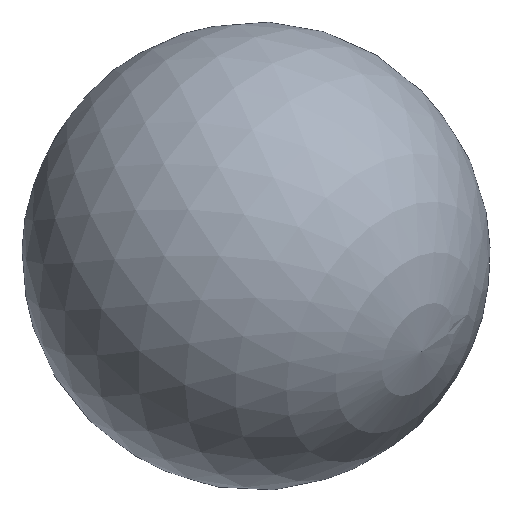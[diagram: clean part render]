
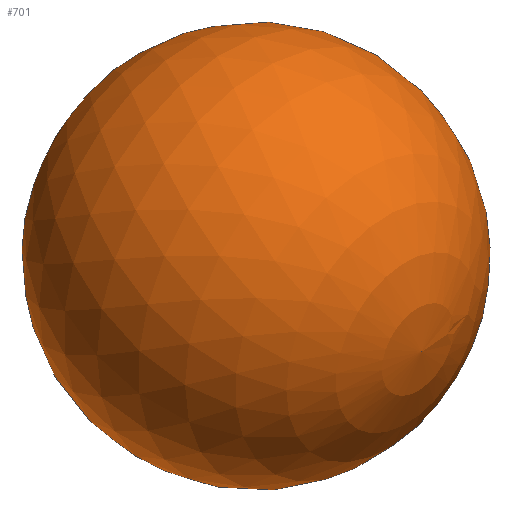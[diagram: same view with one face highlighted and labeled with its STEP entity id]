
A CAD part, isometric view. The second image highlights one B-rep face of the part: STEP entity #701.
In plain terms, the highlighted spherical face has radius 444 mm.
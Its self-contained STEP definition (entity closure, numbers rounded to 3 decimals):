
#701 = ADVANCED_FACE('',(#702),#717,.T.);
#702 = FACE_BOUND('',#703,.T.);
#703 = EDGE_LOOP('',(#704,#735,#762));
#704 = ORIENTED_EDGE('',*,*,#705,.T.);
#705 = EDGE_CURVE('',#706,#708,#710,.T.);
#706 = VERTEX_POINT('',#707);
#707 = CARTESIAN_POINT('',(0.,-444.,0.));
#708 = VERTEX_POINT('',#709);
#709 = CARTESIAN_POINT('',(35.,442.618,0.));
#710 = SEAM_CURVE('',#711,(#716,#728),.PCURVE_S1.);
#711 = CIRCLE('',#712,444.);
#712 = AXIS2_PLACEMENT_3D('',#713,#714,#715);
#713 = CARTESIAN_POINT('',(0.,0.,0.));
#714 = DIRECTION('',(0.,0.,1.));
#715 = DIRECTION('',(0.,-1.,0.));
#716 = PCURVE('',#717,#722);
#717 = SPHERICAL_SURFACE('',#718,444.);
#718 = AXIS2_PLACEMENT_3D('',#719,#720,#721);
#719 = CARTESIAN_POINT('',(0.,0.,0.));
#720 = DIRECTION('',(0.,1.,0.));
#721 = DIRECTION('',(1.,-0.,0.));
#722 = DEFINITIONAL_REPRESENTATION('',(#723),#727);
#723 = LINE('',#724,#725);
#724 = CARTESIAN_POINT('',(0.,-1.571));
#725 = VECTOR('',#726,1.);
#726 = DIRECTION('',(0.,1.));
#727 = ( GEOMETRIC_REPRESENTATION_CONTEXT(2) 
PARAMETRIC_REPRESENTATION_CONTEXT() REPRESENTATION_CONTEXT('2D SPACE',''
  ) );
#728 = PCURVE('',#717,#729);
#729 = DEFINITIONAL_REPRESENTATION('',(#730),#734);
#730 = LINE('',#731,#732);
#731 = CARTESIAN_POINT('',(6.283,-1.571));
#732 = VECTOR('',#733,1.);
#733 = DIRECTION('',(0.,1.));
#734 = ( GEOMETRIC_REPRESENTATION_CONTEXT(2) 
PARAMETRIC_REPRESENTATION_CONTEXT() REPRESENTATION_CONTEXT('2D SPACE',''
  ) );
#735 = ORIENTED_EDGE('',*,*,#736,.F.);
#736 = EDGE_CURVE('',#708,#708,#737,.T.);
#737 = SURFACE_CURVE('',#738,(#743,#750),.PCURVE_S1.);
#738 = CIRCLE('',#739,35.);
#739 = AXIS2_PLACEMENT_3D('',#740,#741,#742);
#740 = CARTESIAN_POINT('',(0.,442.618,0.));
#741 = DIRECTION('',(-0.,1.,0.));
#742 = DIRECTION('',(1.,0.,0.));
#743 = PCURVE('',#717,#744);
#744 = DEFINITIONAL_REPRESENTATION('',(#745),#749);
#745 = LINE('',#746,#747);
#746 = CARTESIAN_POINT('',(0.,1.492));
#747 = VECTOR('',#748,1.);
#748 = DIRECTION('',(1.,0.));
#749 = ( GEOMETRIC_REPRESENTATION_CONTEXT(2) 
PARAMETRIC_REPRESENTATION_CONTEXT() REPRESENTATION_CONTEXT('2D SPACE',''
  ) );
#750 = PCURVE('',#751,#756);
#751 = CYLINDRICAL_SURFACE('',#752,35.);
#752 = AXIS2_PLACEMENT_3D('',#753,#754,#755);
#753 = CARTESIAN_POINT('',(0.,400.,0.));
#754 = DIRECTION('',(0.,1.,0.));
#755 = DIRECTION('',(1.,0.,0.));
#756 = DEFINITIONAL_REPRESENTATION('',(#757),#761);
#757 = LINE('',#758,#759);
#758 = CARTESIAN_POINT('',(0.,42.618));
#759 = VECTOR('',#760,1.);
#760 = DIRECTION('',(1.,0.));
#761 = ( GEOMETRIC_REPRESENTATION_CONTEXT(2) 
PARAMETRIC_REPRESENTATION_CONTEXT() REPRESENTATION_CONTEXT('2D SPACE',''
  ) );
#762 = ORIENTED_EDGE('',*,*,#705,.F.);
